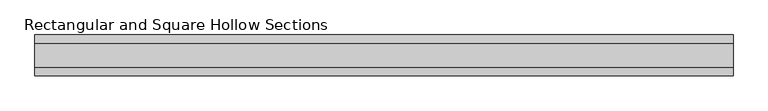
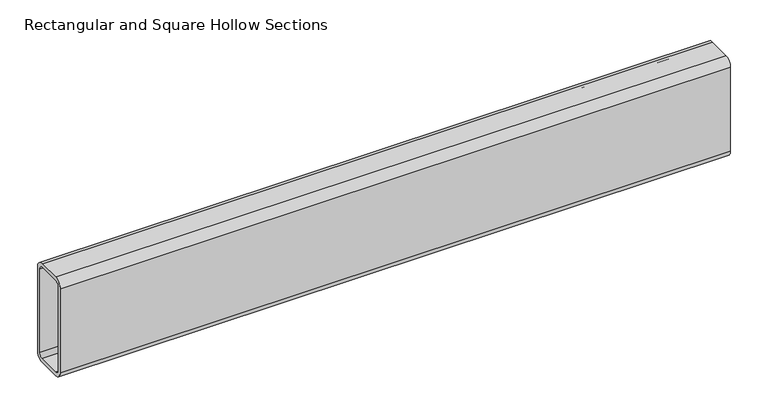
"""IFC4 building model written with IfcOpenShell, lengths in millimetres: beam geometry, Rectangular and Square Hollow Sections : TREC160x60x6."""

import ifcopenshell
import ifcopenshell.guid

model = None  # the IFC model being written
_history = None  # IfcOwnerHistory: only IFC2X3 demands one
_inside = {}  # id of a spatial element -> (the spatial element, [elements in it])
_under = {}  # id of a project, library or spatial element -> (it, [spatial elements below it])
_declared = {}  # id of a project -> (the project, [libraries it declares])
_typed = {}  # id of a type object -> (the type object, [elements of that type])
_made_of = {}  # id of a material, layer set ... -> (it, [elements and type objects made of it])


def new_model(schema):
    """Start an empty IFC model of exactly this schema.

    Asked for "IFC4X3", IfcOpenShell would pick the latest addendum, in which some entities
    have other attributes; the version numbers below select the first issue.
    IFC2X3 requires an IfcOwnerHistory on every rooted entity: one is made here for all.
    """
    global model, _history
    if schema == "IFC4X3":
        model = ifcopenshell.file(schema_version=(4, 3, 0, 0))
    else:
        model = ifcopenshell.file(schema=schema)
    _inside.clear()
    _under.clear()
    _declared.clear()
    _typed.clear()
    _made_of.clear()
    _history = None
    if model.schema == "IFC2X3":
        org = make("IfcOrganization", Name="unknown")
        user = make(
            "IfcPersonAndOrganization",
            ThePerson=make("IfcPerson", FamilyName="unknown"),
            TheOrganization=org,
        )
        app = make(
            "IfcApplication",
            ApplicationDeveloper=org,
            Version="unknown",
            ApplicationFullName="unknown",
            ApplicationIdentifier="unknown",
        )
        _history = make(
            "IfcOwnerHistory",
            OwningUser=user,
            OwningApplication=app,
            ChangeAction="ADDED",
            CreationDate=0,
        )
    return model


def make(cls, **values):
    """One entity of the class cls with the attributes given. An attribute that is None is left unset."""
    return model.create_entity(
        cls, **{name: value for name, value in values.items() if value is not None}
    )


def rooted(cls, **values):
    """An entity with a GlobalId (a new one), such as an element, a storey or a relation."""
    return make(cls, GlobalId=ifcopenshell.guid.new(), OwnerHistory=_history, **values)


def si_unit(unit_type, name, prefix=None):
    """IfcSIUnit, for example si_unit("LENGTHUNIT", "METRE", prefix="MILLI")."""
    return make("IfcSIUnit", UnitType=unit_type, Prefix=prefix, Name=name)


def assignment(units):
    """IfcUnitAssignment: the units of a project."""
    return None if units is None else make("IfcUnitAssignment", Units=units)


def point(xyz):
    """IfcCartesianPoint."""
    return None if xyz is None else make("IfcCartesianPoint", Coordinates=xyz)


def direction(xyz):
    """IfcDirection."""
    return None if xyz is None else make("IfcDirection", DirectionRatios=xyz)


def frame(location, z_axis=None, x_axis=None):
    """IfcAxis2Placement3D, a coordinate frame: its origin and axes. An axis left out is left unset."""
    return make(
        "IfcAxis2Placement3D",
        Location=point(location),
        Axis=direction(z_axis),
        RefDirection=direction(x_axis),
    )


def frame_2d(location, x_axis=None):
    """IfcAxis2Placement2D, a coordinate frame in the plane: its origin and x axis."""
    return make(
        "IfcAxis2Placement2D", Location=point(location), RefDirection=direction(x_axis)
    )


def origin():
    """The frame at (0, 0, 0) with its axes left unset."""
    return frame((0.0, 0.0, 0.0))


def place(relative_to, where):
    """IfcLocalPlacement: puts the frame where relative to a parent placement (None: the world)."""
    return make(
        "IfcLocalPlacement", PlacementRelTo=relative_to, RelativePlacement=where
    )


def context(
    kind, dimensions, precision=None, world=None, true_north=None, identifier=None
):
    """IfcGeometricRepresentationContext, for example the 3D "Model" context."""
    return make(
        "IfcGeometricRepresentationContext",
        ContextIdentifier=identifier,
        ContextType=kind,
        CoordinateSpaceDimension=dimensions,
        Precision=precision,
        WorldCoordinateSystem=world,
        TrueNorth=true_north,
    )


def project(units=None, contexts=None):
    """IfcProject with its units and contexts."""
    return rooted(
        "IfcProject",
        Name="project",
        RepresentationContexts=contexts,
        UnitsInContext=assignment(units),
    )


def spatial(cls, under=None, at=None, **own):
    """A site, building, storey or space (cls), placed at a placement, below another one or the project."""
    s = rooted(cls, ObjectPlacement=at, **own)
    if under is not None:
        _under.setdefault(under.id(), (under, []))[1].append(s)
    return s


def polyline(points):
    """IfcPolyline through the points."""
    return make("IfcPolyline", Points=[point(p) for p in points])


def circle_curve(where, radius):
    """IfcCircle in the frame where."""
    return make("IfcCircle", Position=where, Radius=radius)


def trimmed(basis, trim1, trim2, sense, master):
    """IfcTrimmedCurve: the piece of a basis curve between two trims."""
    return make(
        "IfcTrimmedCurve",
        BasisCurve=basis,
        Trim1=trim1,
        Trim2=trim2,
        SenseAgreement=sense,
        MasterRepresentation=master,
    )


def segment(curve, same_sense, transition):
    """IfcCompositeCurveSegment."""
    return make(
        "IfcCompositeCurveSegment",
        Transition=transition,
        SameSense=same_sense,
        ParentCurve=curve,
    )


def composite_curve(segments, self_intersect=None):
    """IfcCompositeCurve: segments joined end to end."""
    return make("IfcCompositeCurve", Segments=segments, SelfIntersect=self_intersect)


def outline(outer, holes=None, kind="AREA"):
    """IfcArbitraryClosedProfileDef: a profile drawn as a closed curve; with holes, ...WithVoids."""
    if holes is None:
        return make("IfcArbitraryClosedProfileDef", ProfileType=kind, OuterCurve=outer)
    return make(
        "IfcArbitraryProfileDefWithVoids",
        ProfileType=kind,
        OuterCurve=outer,
        InnerCurves=holes,
    )


def extrude(swept, where, along, depth):
    """IfcExtrudedAreaSolid: the profile swept, set in the frame where, extruded along a direction by depth."""
    return make(
        "IfcExtrudedAreaSolid",
        SweptArea=swept,
        Position=where,
        ExtrudedDirection=direction(along),
        Depth=depth,
    )


def shape(context_of_items, identifier, shape_type, items):
    """IfcShapeRepresentation: the items that make up one representation, for example the "Body"."""
    return make(
        "IfcShapeRepresentation",
        ContextOfItems=context_of_items,
        RepresentationIdentifier=identifier,
        RepresentationType=shape_type,
        Items=items,
    )


def source(mapping_origin, context_of_items, identifier, shape_type, items):
    """IfcRepresentationMap: a shape defined once, which mapped items show again and again."""
    return make(
        "IfcRepresentationMap",
        MappingOrigin=mapping_origin,
        MappedRepresentation=shape(context_of_items, identifier, shape_type, items),
    )


def transform(
    local_origin,
    x_axis=None,
    y_axis=None,
    z_axis=None,
    scale=None,
    scale2=None,
    scale3=None,
    uniform=True,
):
    """IfcCartesianTransformationOperator3D, or its non-uniform kind. x_axis, y_axis, z_axis: its Axis1, 2, 3."""
    if uniform:
        return make(
            "IfcCartesianTransformationOperator3D",
            Axis1=direction(x_axis),
            Axis2=direction(y_axis),
            LocalOrigin=point(local_origin),
            Scale=scale,
            Axis3=direction(z_axis),
        )
    return make(
        "IfcCartesianTransformationOperator3DnonUniform",
        Axis1=direction(x_axis),
        Axis2=direction(y_axis),
        LocalOrigin=point(local_origin),
        Scale=scale,
        Axis3=direction(z_axis),
        Scale2=scale2,
        Scale3=scale3,
    )


def mapped(mapping_source, mapping_target):
    """IfcMappedItem: shows the shape of a source again, moved by a transform."""
    return make(
        "IfcMappedItem", MappingSource=mapping_source, MappingTarget=mapping_target
    )


def made_of(thing, what):
    """Note that an element or type object is made of a material, layer set ...; save() writes the relation."""
    if what is not None:
        _made_of.setdefault(what.id(), (what, []))[1].append(thing)
    return thing


def element(
    cls,
    number,
    at=None,
    inside=None,
    cuts=None,
    type_object=None,
    material=None,
    context=None,
    identifier="Body",
    shape_type=None,
    held_by="IfcProductDefinitionShape",
    body=None,
    shapes=None,
    **own,
):
    """One element of the class cls, such as IfcWall. Its Tag is "e" and its number.

    at: its placement. inside: the storey or other place that contains it. cuts: it is an
    opening in that element (IfcRelVoidsElement). A single representation is given by context,
    identifier, shape_type and body (its items); several are given by shapes. held_by: the class
    of the entity that holds the representations. save() writes the other relations.
    """
    e = rooted(cls, Tag="e%d" % number, ObjectPlacement=at, **own)
    if body is not None:
        shapes = [shape(context, identifier, shape_type, body)]
    if shapes is not None:
        e.Representation = make(held_by, Representations=shapes)
    if inside is not None:
        _inside.setdefault(inside.id(), (inside, []))[1].append(e)
    if cuts is not None:
        rooted(
            "IfcRelVoidsElement", RelatingBuildingElement=cuts, RelatedOpeningElement=e
        )
    if type_object is not None:
        _typed.setdefault(type_object.id(), (type_object, []))[1].append(e)
    return made_of(e, material)


def aggregate(whole, parts):
    """IfcRelAggregates: a whole, such as a stair, and the parts it consists of."""
    return rooted("IfcRelAggregates", RelatingObject=whole, RelatedObjects=parts)


def save(model, path):
    """Write the relations noted so far, then the file.

    IfcRelAggregates (storeys below a building ...), IfcRelContainedInSpatialStructure (elements
    in a storey), IfcRelDefinesByType, IfcRelAssociatesMaterial and IfcRelDeclares: one each for
    every whole, place, type object, material and project.
    """
    for whole, parts in _under.values():
        aggregate(whole, parts)
    for where, things in _inside.values():
        rooted(
            "IfcRelContainedInSpatialStructure",
            RelatedElements=things,
            RelatingStructure=where,
        )
    for kind, things in _typed.values():
        rooted("IfcRelDefinesByType", RelatedObjects=things, RelatingType=kind)
    for what, things in _made_of.values():
        rooted("IfcRelAssociatesMaterial", RelatedObjects=things, RelatingMaterial=what)
    for by, libraries in _declared.values():
        rooted("IfcRelDeclares", RelatingContext=by, RelatedDefinitions=libraries)
    model.write(path)


def rectangular_and_square_hollow_sections_2afae095(model_context):
    return source(origin(), model_context, "Body", "SweptSolid", [
        extrude(outline(composite_curve([segment(polyline([(30.0, 68.0), (30.0, -68.0)]), True, "CONTINUOUS"), segment(trimmed(circle_curve(frame_2d((18.0, -68.0)), 12.0), [point((30.0, -68.0))], [point((18.0, -80.0))], False, "CARTESIAN"), True, "CONTINUOUS"), segment(polyline([(18.0, -80.0), (-18.0, -80.0)]), True, "CONTINUOUS"), segment(trimmed(circle_curve(frame_2d((-18.0, -68.0)), 12.0), [point((-18.0, -80.0))], [point((-30.0, -68.0))], False, "CARTESIAN"), True, "CONTINUOUS"), segment(polyline([(-30.0, -68.0), (-30.0, 68.0)]), True, "CONTINUOUS"), segment(trimmed(circle_curve(frame_2d((-18.0, 68.0)), 12.0), [point((-30.0, 68.0))], [point((-18.0, 80.0))], False, "CARTESIAN"), True, "CONTINUOUS"), segment(polyline([(-18.0, 80.0), (18.0, 80.0)]), True, "CONTINUOUS"), segment(trimmed(circle_curve(frame_2d((18.0, 68.0)), 12.0), [point((18.0, 80.0))], [point((30.0, 68.0))], False, "CARTESIAN"), True, "CONTINUOUS")], self_intersect=False), holes=[composite_curve([segment(trimmed(circle_curve(frame_2d((-18.0, 68.0)), 6.0), [point((-18.0, 74.0))], [point((-24.0, 68.0))], True, "CARTESIAN"), True, "CONTINUOUS"), segment(polyline([(-24.0, 68.0), (-24.0, -68.0)]), True, "CONTINUOUS"), segment(trimmed(circle_curve(frame_2d((-18.0, -68.0)), 6.0), [point((-24.0, -68.0))], [point((-18.0, -74.0))], True, "CARTESIAN"), True, "CONTINUOUS"), segment(polyline([(-18.0, -74.0), (18.0, -74.0)]), True, "CONTINUOUS"), segment(trimmed(circle_curve(frame_2d((18.0, -68.0)), 6.0), [point((18.0, -74.0))], [point((24.0, -68.0))], True, "CARTESIAN"), True, "CONTINUOUS"), segment(polyline([(24.0, -68.0), (24.0, 68.0)]), True, "CONTINUOUS"), segment(trimmed(circle_curve(frame_2d((18.0, 68.0)), 6.0), [point((24.0, 68.0))], [point((18.0, 74.0))], True, "CARTESIAN"), True, "CONTINUOUS"), segment(polyline([(18.0, 74.0), (-18.0, 74.0)]), True, "CONTINUOUS")], self_intersect=False)]), frame((-505.4385854, 0.0, 0.0), z_axis=(1.0, 0.0, 0.0), x_axis=(0.0, 1.0, 0.0)), (0.0, 0.0, 1.0), 1029.4385854),
    ])


if __name__ == "__main__":
    model = new_model("IFC4")
    model_context = context("Model", 3, world=origin())
    ifc_project = project(units=[si_unit("LENGTHUNIT", "METRE", prefix="MILLI")], contexts=[model_context])
    site = spatial("IfcSite", under=ifc_project)
    building = spatial("IfcBuilding", under=site)
    placement = place(None, origin())
    rectangular_and_square_hollow_sections_shape = rectangular_and_square_hollow_sections_2afae095(model_context)
    element("IfcBeam", 1, ObjectType="Rectangular and Square Hollow Sections : TREC160x60x6", at=placement, inside=building, context=model_context, shape_type="MappedRepresentation", body=[
        mapped(rectangular_and_square_hollow_sections_shape, transform((0.0, 0.0, 0.0), x_axis=(1.0, 0.0, 0.0), y_axis=(0.0, 1.0, 0.0), z_axis=(0.0, 0.0, 1.0))),
    ])
    save(model, "model.ifc")
